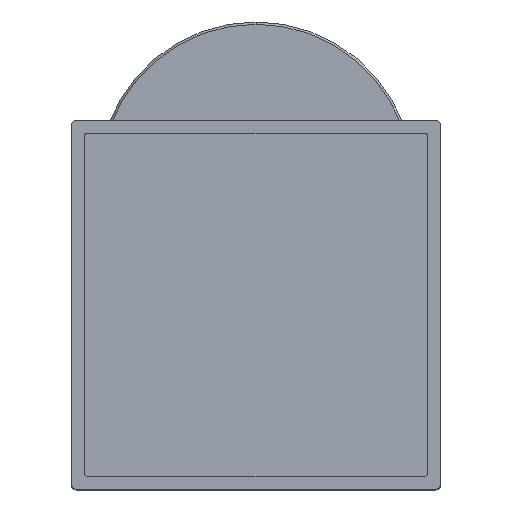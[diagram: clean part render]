
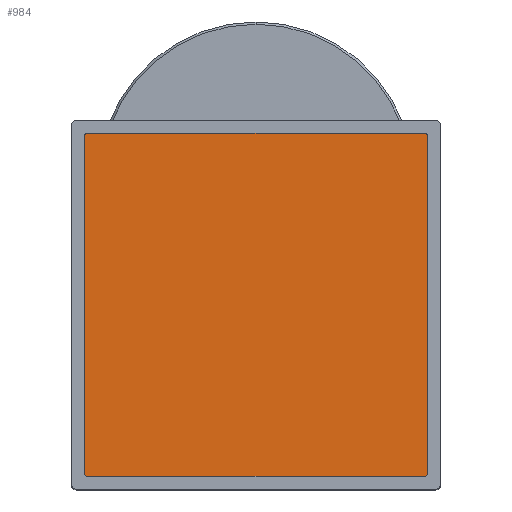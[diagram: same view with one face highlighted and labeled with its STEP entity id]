
A CAD part, top view. The second image highlights one B-rep face of the part: STEP entity #984.
In plain terms, the highlighted planar face has unit normal (0, 0, 1).
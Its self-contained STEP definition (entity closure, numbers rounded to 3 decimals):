
#909=CARTESIAN_POINT('',(-37.6,-37.6,66.91));
#910=DIRECTION('',(0.,0.,-1.));
#911=DIRECTION('',(0.,-1.,0.));
#912=AXIS2_PLACEMENT_3D('',#909,#910,#911);
#914=DIRECTION('',(0.,1.,0.));
#915=VECTOR('',#914,75.2);
#916=CARTESIAN_POINT('',(-38.1,-37.6,66.91));
#917=LINE('',#916,#915);
#918=CARTESIAN_POINT('',(-37.6,37.6,66.91));
#919=DIRECTION('',(0.,0.,-1.));
#920=DIRECTION('',(-1.,0.,0.));
#921=AXIS2_PLACEMENT_3D('',#918,#919,#920);
#923=DIRECTION('',(1.,0.,0.));
#924=VECTOR('',#923,75.2);
#925=CARTESIAN_POINT('',(-37.6,38.1,66.91));
#926=LINE('',#925,#924);
#927=CARTESIAN_POINT('',(37.6,37.6,66.91));
#928=DIRECTION('',(0.,0.,-1.));
#929=DIRECTION('',(0.,1.,0.));
#930=AXIS2_PLACEMENT_3D('',#927,#928,#929);
#932=DIRECTION('',(0.,-1.,0.));
#933=VECTOR('',#932,75.2);
#934=CARTESIAN_POINT('',(38.1,37.6,66.91));
#935=LINE('',#934,#933);
#936=CARTESIAN_POINT('',(37.6,-37.6,66.91));
#937=DIRECTION('',(0.,0.,-1.));
#938=DIRECTION('',(1.,0.,0.));
#939=AXIS2_PLACEMENT_3D('',#936,#937,#938);
#941=DIRECTION('',(-1.,0.,0.));
#942=VECTOR('',#941,75.2);
#943=CARTESIAN_POINT('',(37.6,-38.1,66.91));
#944=LINE('',#943,#942);
#945=CARTESIAN_POINT('',(-38.1,-37.6,66.91));
#946=CARTESIAN_POINT('',(-37.6,-38.1,66.91));
#947=VERTEX_POINT('',#945);
#948=VERTEX_POINT('',#946);
#949=CARTESIAN_POINT('',(37.6,-38.1,66.91));
#950=VERTEX_POINT('',#949);
#951=CARTESIAN_POINT('',(38.1,-37.6,66.91));
#952=CARTESIAN_POINT('',(38.1,37.6,66.91));
#953=VERTEX_POINT('',#951);
#954=VERTEX_POINT('',#952);
#955=CARTESIAN_POINT('',(37.6,38.1,66.91));
#956=CARTESIAN_POINT('',(-37.6,38.1,66.91));
#957=VERTEX_POINT('',#955);
#958=VERTEX_POINT('',#956);
#959=CARTESIAN_POINT('',(-38.1,37.6,66.91));
#960=VERTEX_POINT('',#959);
#961=CARTESIAN_POINT('',(0.,0.,66.91));
#962=DIRECTION('',(0.,0.,1.));
#963=DIRECTION('',(1.,0.,0.));
#964=AXIS2_PLACEMENT_3D('',#961,#962,#963);
#965=PLANE('',#964);
#967=ORIENTED_EDGE('',*,*,#966,.T.);
#969=ORIENTED_EDGE('',*,*,#968,.T.);
#971=ORIENTED_EDGE('',*,*,#970,.T.);
#973=ORIENTED_EDGE('',*,*,#972,.T.);
#975=ORIENTED_EDGE('',*,*,#974,.T.);
#977=ORIENTED_EDGE('',*,*,#976,.T.);
#979=ORIENTED_EDGE('',*,*,#978,.T.);
#981=ORIENTED_EDGE('',*,*,#980,.T.);
#982=EDGE_LOOP('',(#967,#969,#971,#973,#975,#977,#979,#981));
#983=FACE_OUTER_BOUND('',#982,.F.);
#984=ADVANCED_FACE('',(#983),#965,.T.);
#913=CIRCLE('',#912,0.5);
#922=CIRCLE('',#921,0.5);
#931=CIRCLE('',#930,0.5);
#940=CIRCLE('',#939,0.5);
#966=EDGE_CURVE('',#948,#947,#913,.T.);
#968=EDGE_CURVE('',#947,#960,#917,.T.);
#970=EDGE_CURVE('',#960,#958,#922,.T.);
#972=EDGE_CURVE('',#958,#957,#926,.T.);
#974=EDGE_CURVE('',#957,#954,#931,.T.);
#976=EDGE_CURVE('',#954,#953,#935,.T.);
#978=EDGE_CURVE('',#953,#950,#940,.T.);
#980=EDGE_CURVE('',#950,#948,#944,.T.);
